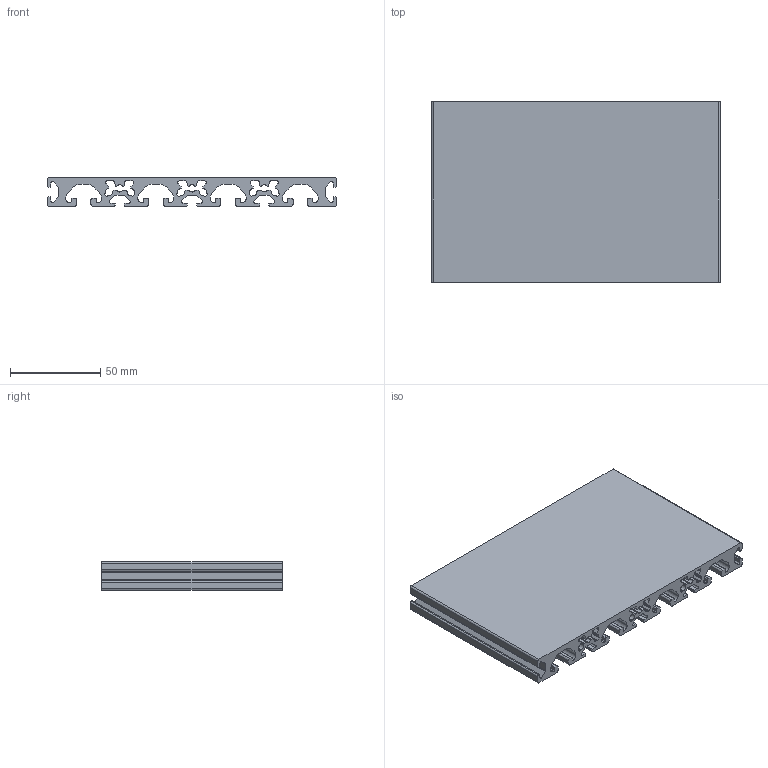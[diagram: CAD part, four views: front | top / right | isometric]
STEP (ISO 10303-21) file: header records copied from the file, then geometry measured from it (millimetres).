
FILE_DESCRIPTION (( 'STEP AP203' ), '1' );
FILE_NAME ('0108P16016.STEP', '2024-02-28T11:03:41', ( 'Windows-Benutzer' ), ( '' ), 'SwSTEP 2.0', 'SolidWorks 2023', '' );
FILE_SCHEMA (( 'CONFIG_CONTROL_DESIGN' ));
Length unit declared in the file: millimetre
Products named in the file (1): 0108P16016
Bounding box: 160 x 100 x 16 mm (x, y, z)
Volume: 138265.4 mm3; surface area: 84277 mm2
Topology: 1 solids, 1 shells, 353 faces, 1053 edges, 702 vertices
Faces by surface type: cylinder 213, plane 140
Entity records: 12122 total; most frequent: DIRECTION 2187, CARTESIAN_POINT 2109, ORIENTED_EDGE 2106, EDGE_CURVE 1053, AXIS2_PLACEMENT_3D 780, VERTEX_POINT 702, VECTOR 627, LINE 627
